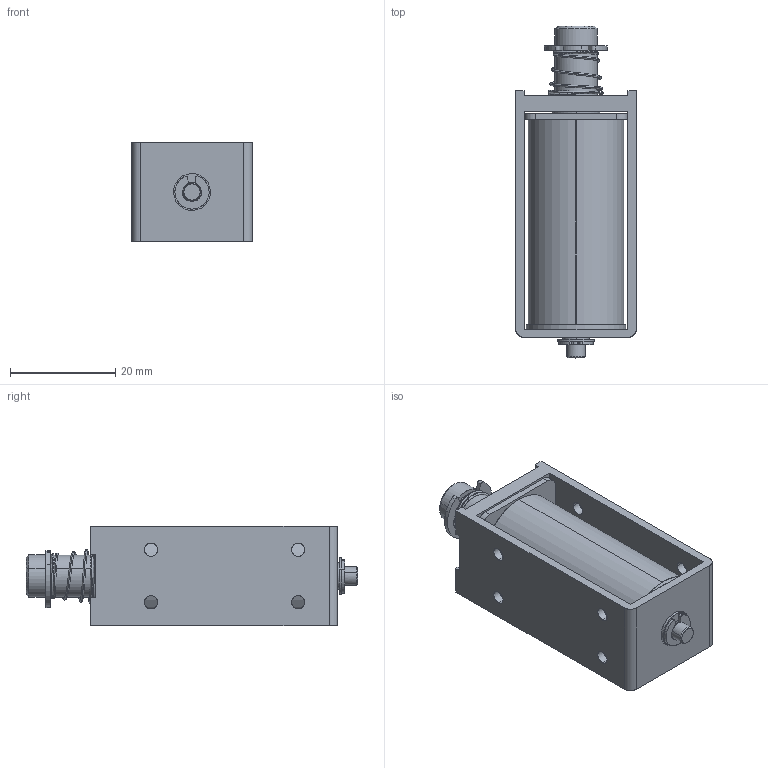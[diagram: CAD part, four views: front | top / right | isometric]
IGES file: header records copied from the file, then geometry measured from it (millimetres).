
Start section: SolidWorks IGES file using analytic representation for surfaces
Global section: file name: L:\カタログ\web用3Dデータ\CB0847\3D_CB0847\w_cb0847.IGS; native system: SolidWorks 2014; preprocessor: SolidWorks 2014; author: jiba; date: 140716.134719; units: millimetre
Bounding box: 23 x 63.2 x 19 mm (x, y, z)
Surface area: 11362.2 mm2 (no closed solid volume)
Topology: 0 solids, 0 shells, 168 faces, 2687 edges, 2687 vertices
Faces by surface type: revolution 101, bspline 67
